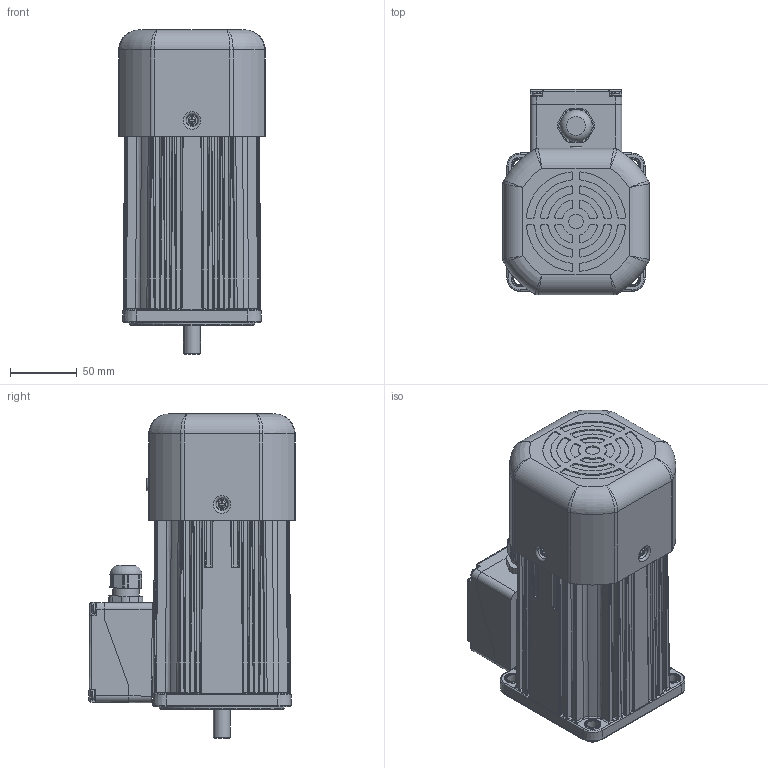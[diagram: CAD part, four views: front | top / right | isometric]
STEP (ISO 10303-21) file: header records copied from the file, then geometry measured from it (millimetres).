
FILE_DESCRIPTION (( 'STEP AP214' ), '1' );
FILE_NAME ('10BDGE-250FU-T.STEP', '2025-01-13T07:56:26', ( '' ), ( '' ), 'SwSTEP 2.0', 'SolidWorks 2024', '' );
FILE_SCHEMA (( 'AUTOMOTIVE_DESIGN' ));
Length unit declared in the file: millimetre
Products named in the file (3): TB8090; 10BDGE-250FU; 10BDGE-250FU-T
Assembly tree (2 placements, depth 2):
  10BDGE-250FU-T
    10BDGE-250FU
    TB8090
Bounding box: 110 x 154.94 x 243.5 mm (x, y, z)
Volume: 2348563 mm3; surface area: 159436.6 mm2
Topology: 4 solids, 4 shells, 908 faces, 2314 edges, 1427 vertices
Faces by surface type: plane 389, cylinder 262, bspline 158, cone 80, torus 13, sphere 6
Full cylindrical faces by diameter (mm): 4 x1, 5.8 x4, 6.7 x4, 8 x4, 11 x1, 12.8 x1, 18 x1, 20 x1, 43 x1, 94 x1
Entity records: 48750 total; most frequent: CARTESIAN_POINT 28594, ORIENTED_EDGE 4390, DIRECTION 3737, EDGE_CURVE 2195, VERTEX_POINT 1408, AXIS2_PLACEMENT_3D 1311, VECTOR 1115, LINE 1115
